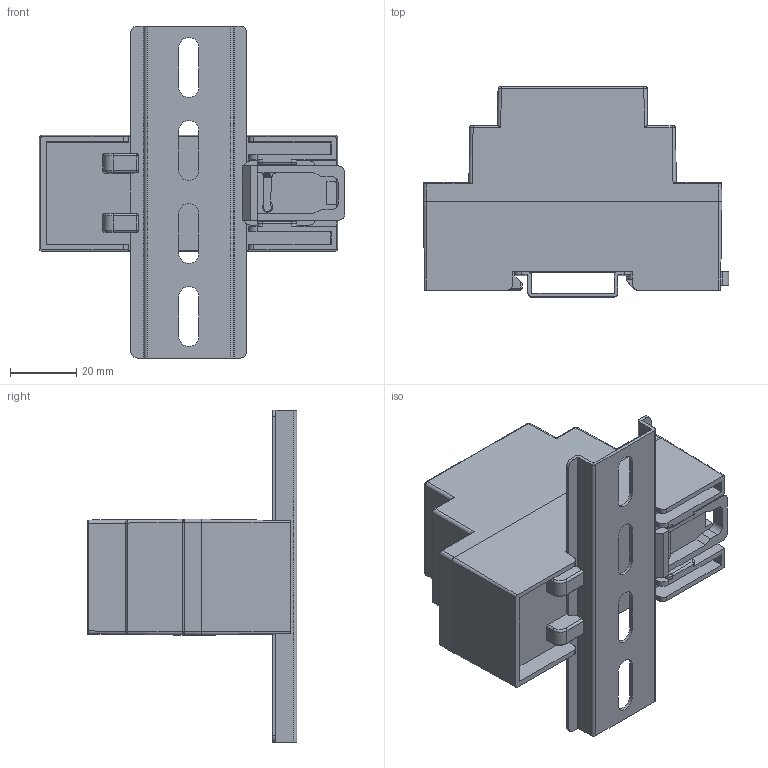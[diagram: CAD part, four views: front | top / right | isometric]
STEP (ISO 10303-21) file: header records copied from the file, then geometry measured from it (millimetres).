
FILE_DESCRIPTION (( 'STEP AP203' ), '1' );
FILE_NAME ('RT-1202-A.STEP', '2024-03-29T11:59:26', ( '' ), ( '' ), 'SwSTEP 2.0', 'SolidWorks 2021', '' );
FILE_SCHEMA (( 'CONFIG_CONTROL_DESIGN' ));
Length unit declared in the file: millimetre
Products named in the file (6): DIN_rayi_rev1; RT-1202-A; ust_govde; alt_taban; 2,5mm_vida; A-102
Assembly tree (5 placements, depth 2):
  RT-1202-A
    alt_taban
    ust_govde
    A-102
    DIN_rayi_rev1
    2,5mm_vida
Bounding box: 92.06 x 63.2 x 100 mm (x, y, z)
Volume: 36503.4 mm3; surface area: 49198.5 mm2
Topology: 5 solids, 5 shells, 539 faces, 1483 edges, 966 vertices
Faces by surface type: plane 304, cylinder 132, bspline 61, cone 34, sphere 6, torus 2
Entity records: 20647 total; most frequent: CARTESIAN_POINT 6843, ORIENTED_EDGE 2966, DIRECTION 2473, EDGE_CURVE 1483, LINE 999, VECTOR 999, VERTEX_POINT 966, AXIS2_PLACEMENT_3D 737
